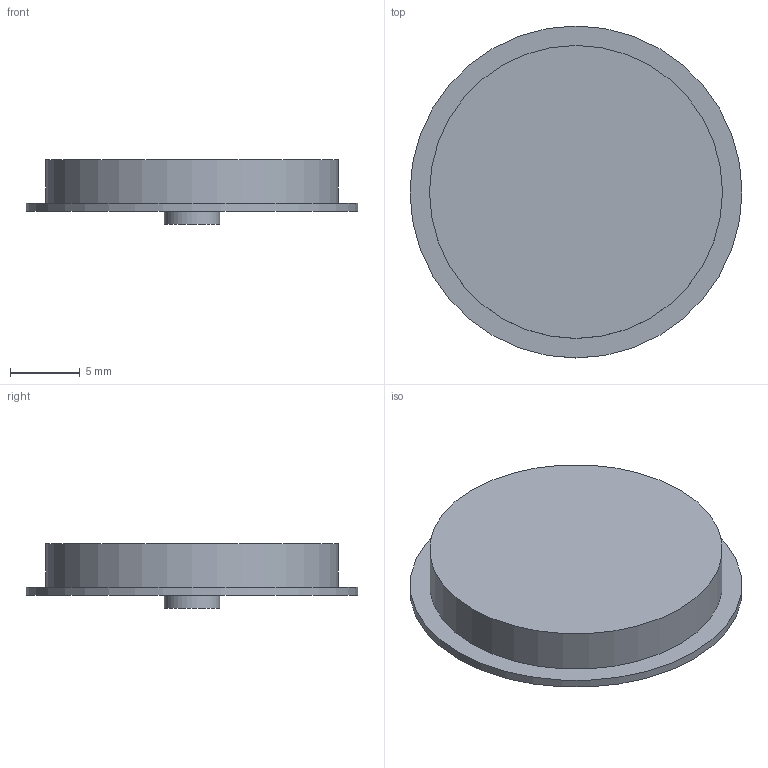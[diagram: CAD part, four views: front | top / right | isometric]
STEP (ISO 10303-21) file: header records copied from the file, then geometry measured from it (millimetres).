
FILE_DESCRIPTION(('Open CASCADE Model'),'2;1');
FILE_NAME('Open CASCADE Shape Model','2026-09-08T13:32:06',('Author'),( 'Open CASCADE'),'Open CASCADE STEP processor 7.7','Open CASCADE 7.7' ,'Unknown');
FILE_SCHEMA(('AUTOMOTIVE_DESIGN { 1 0 10303 214 1 1 1 1 }'));
Length unit declared in the file: millimetre
Products named in the file (1): Open CASCADE STEP translator 7.7 12
Bounding box: 23.8 x 23.8 x 4.61 mm (x, y, z)
Volume: 1352.1 mm3; surface area: 1150.6 mm2
Topology: 1 solids, 1 shells, 7 faces, 9 edges, 6 vertices
Faces by surface type: plane 4, cylinder 3
Full cylindrical faces by diameter (mm): 4 x1, 21 x1, 23.8 x1
Entity records: 279 total; most frequent: DIRECTION 48, CARTESIAN_POINT 47, ORIENTED_EDGE 18, PCURVE 18, DEFINITIONAL_REPRESENTATION 18, LINE 15, VECTOR 15, AXIS2_PLACEMENT_3D 14
